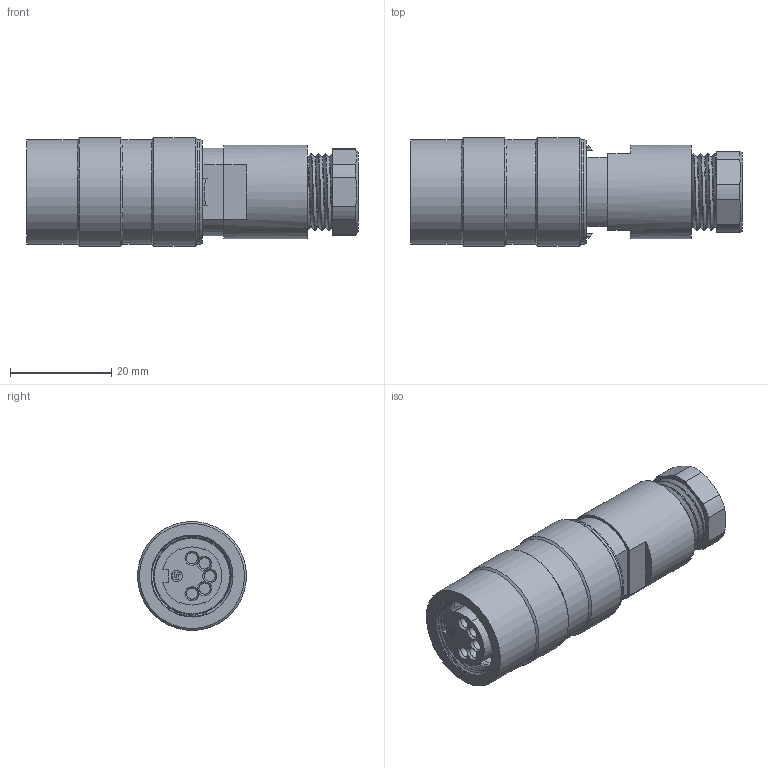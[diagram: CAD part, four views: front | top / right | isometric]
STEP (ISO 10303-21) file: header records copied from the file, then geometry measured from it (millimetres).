
FILE_DESCRIPTION(/* description */ (''),/* implementation_level */ '2;1');
FILE_NAME(/* name */ '09 0118 70 05 001_00.stp',/* time_stamp */ '2017-11-09T11:10:50+01:00',/* author */ (''),/* organization */ (''),/* preprocessor_version */ 'ST-DEVELOPER v16',/* originating_system */ 'SIEMENS PLM Software NX 11.0',/* authorisation */ '');
FILE_SCHEMA (('AUTOMOTIVE_DESIGN { 1 0 10303 214 3 1 1 1 }'));
Length unit declared in the file: millimetre
Products named in the file (1): cerl0A48F6CD528g
Bounding box: 65.5 x 21.42 x 21.42 mm (x, y, z)
Volume: 17915.6 mm3; surface area: 6475.8 mm2
Topology: 1 solids, 4 shells, 127 faces, 298 edges, 194 vertices
Faces by surface type: plane 69, cylinder 38, cone 12, bspline 4, torus 2, revolution 2
Full cylindrical faces by diameter (mm): 1.4 x1, 1.8 x2, 2.2 x5, 2.25 x1, 9.5 x1, 14.9 x1, 16 x1, 17.45 x1, 18.5 x1, 20.7 x3, 21.5 x2
Entity records: 5602 total; most frequent: CARTESIAN_POINT 2852, DIRECTION 563, ORIENTED_EDGE 508, EDGE_CURVE 254, AXIS2_PLACEMENT_3D 217, VERTEX_POINT 183, EDGE_LOOP 173, LINE 127
